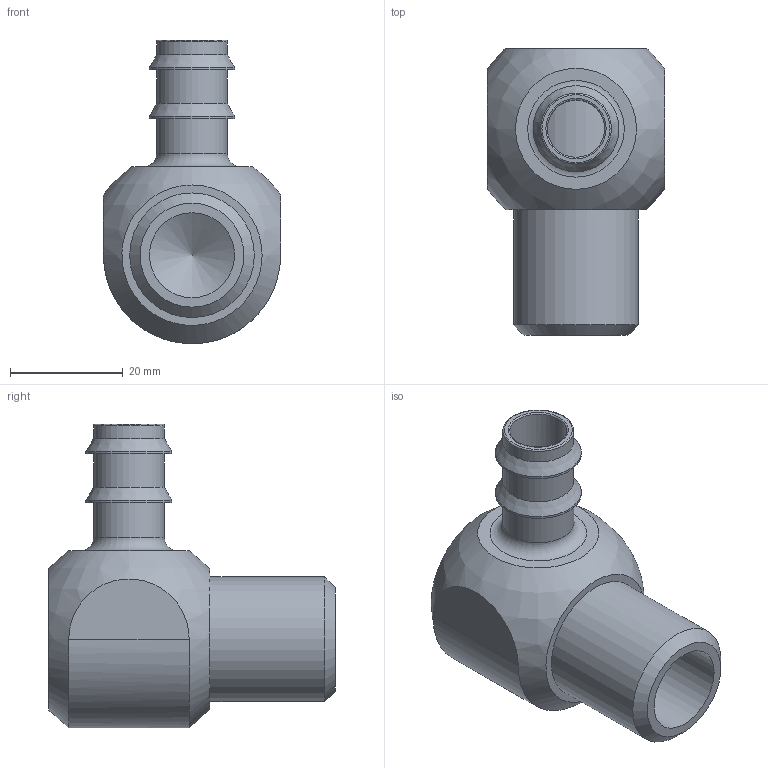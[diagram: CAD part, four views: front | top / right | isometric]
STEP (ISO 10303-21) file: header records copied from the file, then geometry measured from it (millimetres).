
FILE_DESCRIPTION(/* description */ (''),/* implementation_level */ '2;1');
FILE_NAME(/* name */ 'C:/Users/drich/Desktop/WJ50-S50 v1.step',/* time_stamp */ '2019-12-29T15:39:43-06:00',/* author */ (''),/* organization */ (''),/* preprocessor_version */ 'ST-DEVELOPER v18',/* originating_system */ 'Autodesk Translation Framework v8.12.0.6',/* authorisation */ '');
FILE_SCHEMA (('AUTOMOTIVE_DESIGN { 1 0 10303 214 3 1 1 }'));
Length unit declared in the file: inch
Products named in the file (2): WJ50-S50; WJ50-S SHAFT
Assembly tree (1 placements, depth 2):
  WJ50-S50
    WJ50-S SHAFT
Bounding box: 31.39 x 50.8 x 53.78 mm (x, y, z)
Volume: 24645.6 mm3; surface area: 13107.1 mm2
Topology: 2 solids, 2 shells, 37 faces, 96 edges, 70 vertices
Faces by surface type: plane 18, cylinder 11, cone 4, torus 3, bspline 1
Full cylindrical faces by diameter (mm): 10.183 x1, 12.571 x3, 15.062 x1, 15.24 x2, 21.336 x1, 21.463 x1, 22.095 x1
Entity records: 1592 total; most frequent: CARTESIAN_POINT 571, DIRECTION 214, ORIENTED_EDGE 190, EDGE_CURVE 95, AXIS2_PLACEMENT_3D 90, VERTEX_POINT 70, CIRCLE 51, EDGE_LOOP 49
